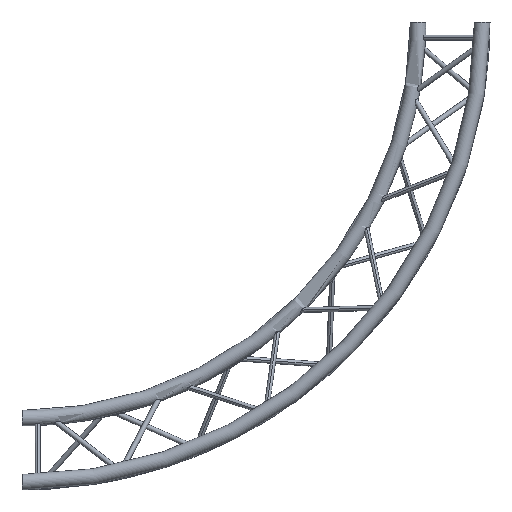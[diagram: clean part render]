
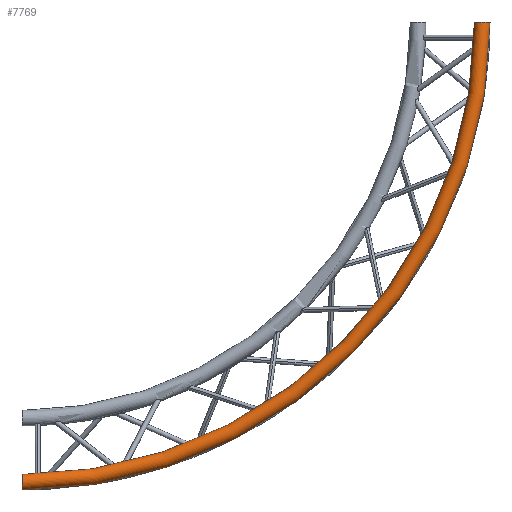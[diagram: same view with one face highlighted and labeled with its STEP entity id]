
A CAD part, front view. The second image highlights one B-rep face of the part: STEP entity #7769.
In plain terms, the highlighted toroidal (fillet/blend) face has major radius 1475 mm and minor radius 25 mm.
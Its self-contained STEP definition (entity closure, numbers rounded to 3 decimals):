
#206 = ORIENTED_EDGE ( 'NONE', *, *, #216, .F. ) ;
#209 = VERTEX_POINT ( 'NONE', #2615 ) ;
#216 = EDGE_CURVE ( 'NONE', #218, #7757, #2674, .T. ) ;
#218 = VERTEX_POINT ( 'NONE', #2669 ) ;
#221 = ORIENTED_EDGE ( 'NONE', *, *, #232, .T. ) ;
#232 = EDGE_CURVE ( 'NONE', #7754, #209, #2830, .T. ) ;
#2615 = CARTESIAN_POINT ( 'NONE',  ( 0., -118.5, -1500. ) ) ;
#2643 = CARTESIAN_POINT ( 'NONE',  ( 1475., -118.5, 0. ) ) ;
#2669 = CARTESIAN_POINT ( 'NONE',  ( 1450., -118.5, 0. ) ) ;
#2671 = DIRECTION ( 'NONE',  ( 1., 0., 0. ) ) ;
#2672 = DIRECTION ( 'NONE',  ( 0., 0., 1. ) ) ;
#2673 = AXIS2_PLACEMENT_3D ( 'NONE', #2643, #2672, #2671 ) ;
#2674 = CIRCLE ( 'NONE', #2673, 25. ) ;
#2826 = DIRECTION ( 'NONE',  ( 0., 0., -1. ) ) ;
#2827 = DIRECTION ( 'NONE',  ( 1., 0., 0. ) ) ;
#2828 = CARTESIAN_POINT ( 'NONE',  ( 0., -118.5, -1475. ) ) ;
#2829 = AXIS2_PLACEMENT_3D ( 'NONE', #2828, #2827, #2826 ) ;
#2830 = CIRCLE ( 'NONE', #2829, 25. ) ;
#5075 = DIRECTION ( 'NONE',  ( 0., 0., -1. ) ) ;
#5400 = DIRECTION ( 'NONE',  ( 0., -1., 0. ) ) ;
#5401 = AXIS2_PLACEMENT_3D ( 'NONE', #5404, #5400, #5075 ) ;
#5404 = CARTESIAN_POINT ( 'NONE',  ( 0., -118.5, 0. ) ) ;
#5405 = TOROIDAL_SURFACE ( 'NONE', #5401, 1475., 25. ) ;
#5410 = FACE_OUTER_BOUND ( 'NONE', #7755, .T. ) ;
#5414 = CARTESIAN_POINT ( 'NONE',  ( 1500., -118.5, 0. ) ) ;
#5415 = DIRECTION ( 'NONE',  ( 0., 0., -1. ) ) ;
#5416 = DIRECTION ( 'NONE',  ( 0., -1., 0. ) ) ;
#5417 = CARTESIAN_POINT ( 'NONE',  ( 0., -118.5, 0. ) ) ;
#5418 = AXIS2_PLACEMENT_3D ( 'NONE', #5417, #5416, #5415 ) ;
#5419 = CIRCLE ( 'NONE', #5418, 1500. ) ;
#5420 = CARTESIAN_POINT ( 'NONE',  ( 0., -118.5, -1450. ) ) ;
#6222 = DIRECTION ( 'NONE',  ( 0., 0., -1. ) ) ;
#6223 = DIRECTION ( 'NONE',  ( 0., -1., 0. ) ) ;
#6224 = CARTESIAN_POINT ( 'NONE',  ( 0., -118.5, 0. ) ) ;
#6225 = AXIS2_PLACEMENT_3D ( 'NONE', #6224, #6223, #6222 ) ;
#6226 = CIRCLE ( 'NONE', #6225, 1450. ) ;
#7747 = ORIENTED_EDGE ( 'NONE', *, *, #7756, .T. ) ;
#7754 = VERTEX_POINT ( 'NONE', #5420 ) ;
#7755 = EDGE_LOOP ( 'NONE', ( #221, #7747, #206, #8052 ) ) ;
#7756 = EDGE_CURVE ( 'NONE', #209, #7757, #5419, .T. ) ;
#7757 = VERTEX_POINT ( 'NONE', #5414 ) ;
#7769 = ADVANCED_FACE ( 'NONE', ( #5410 ), #5405, .T. ) ;
#8052 = ORIENTED_EDGE ( 'NONE', *, *, #8076, .F. ) ;
#8076 = EDGE_CURVE ( 'NONE', #7754, #218, #6226, .T. ) ;
